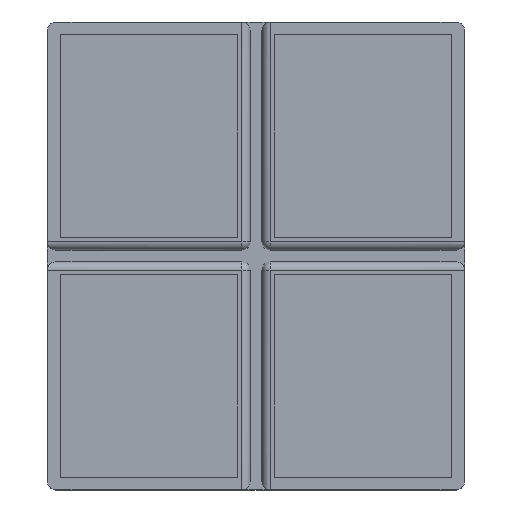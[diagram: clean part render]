
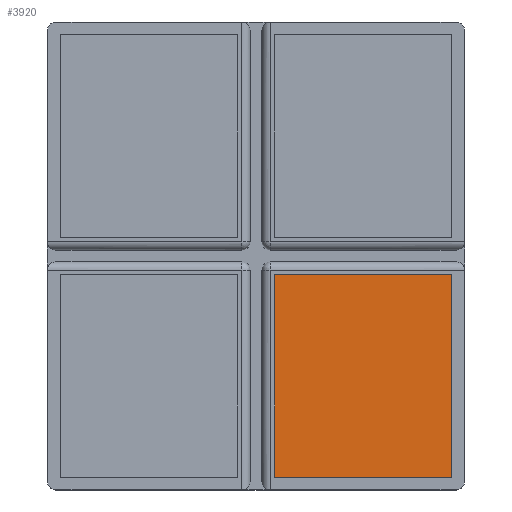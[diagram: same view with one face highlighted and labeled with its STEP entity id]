
A CAD part, top view. The second image highlights one B-rep face of the part: STEP entity #3920.
In plain terms, the highlighted planar face has unit normal (0, 0, 1).
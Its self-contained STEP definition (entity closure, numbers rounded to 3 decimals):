
#448 = PLANE('',#449);
#449 = AXIS2_PLACEMENT_3D('',#450,#451,#452);
#450 = CARTESIAN_POINT('',(53.6,3.,0.));
#451 = DIRECTION('',(0.,-1.,0.));
#452 = DIRECTION('',(1.,0.,0.));
#476 = PLANE('',#477);
#477 = AXIS2_PLACEMENT_3D('',#478,#479,#480);
#478 = CARTESIAN_POINT('',(53.6,50.8,0.));
#479 = DIRECTION('',(-1.,0.,0.));
#480 = DIRECTION('',(0.,-1.,0.));
#504 = PLANE('',#505);
#505 = AXIS2_PLACEMENT_3D('',#506,#507,#508);
#506 = CARTESIAN_POINT('',(95.4,50.8,0.));
#507 = DIRECTION('',(0.,1.,0.));
#508 = DIRECTION('',(-1.,0.,0.));
#530 = PLANE('',#531);
#531 = AXIS2_PLACEMENT_3D('',#532,#533,#534);
#532 = CARTESIAN_POINT('',(95.4,3.,0.));
#533 = DIRECTION('',(1.,0.,0.));
#534 = DIRECTION('',(0.,1.,0.));
#2175 = VERTEX_POINT('',#2176);
#2176 = CARTESIAN_POINT('',(53.6,3.,-8.));
#2197 = EDGE_CURVE('',#2175,#2198,#2200,.T.);
#2198 = VERTEX_POINT('',#2199);
#2199 = CARTESIAN_POINT('',(95.4,3.,-8.));
#2200 = SURFACE_CURVE('',#2201,(#2205,#2212),.PCURVE_S1.);
#2201 = LINE('',#2202,#2203);
#2202 = CARTESIAN_POINT('',(53.6,3.,-8.));
#2203 = VECTOR('',#2204,1.);
#2204 = DIRECTION('',(1.,0.,0.));
#2205 = PCURVE('',#448,#2206);
#2206 = DEFINITIONAL_REPRESENTATION('',(#2207),#2211);
#2207 = LINE('',#2208,#2209);
#2208 = CARTESIAN_POINT('',(0.,-8.));
#2209 = VECTOR('',#2210,1.);
#2210 = DIRECTION('',(1.,0.));
#2211 = ( GEOMETRIC_REPRESENTATION_CONTEXT(2) 
PARAMETRIC_REPRESENTATION_CONTEXT() REPRESENTATION_CONTEXT('2D SPACE',''
  ) );
#2212 = PCURVE('',#2213,#2218);
#2213 = PLANE('',#2214);
#2214 = AXIS2_PLACEMENT_3D('',#2215,#2216,#2217);
#2215 = CARTESIAN_POINT('',(74.5,26.9,-8.));
#2216 = DIRECTION('',(0.,0.,1.));
#2217 = DIRECTION('',(1.,0.,-0.));
#2218 = DEFINITIONAL_REPRESENTATION('',(#2219),#2223);
#2219 = LINE('',#2220,#2221);
#2220 = CARTESIAN_POINT('',(-20.9,-23.9));
#2221 = VECTOR('',#2222,1.);
#2222 = DIRECTION('',(1.,0.));
#2223 = ( GEOMETRIC_REPRESENTATION_CONTEXT(2) 
PARAMETRIC_REPRESENTATION_CONTEXT() REPRESENTATION_CONTEXT('2D SPACE',''
  ) );
#2251 = EDGE_CURVE('',#2198,#2252,#2254,.T.);
#2252 = VERTEX_POINT('',#2253);
#2253 = CARTESIAN_POINT('',(95.4,50.8,-8.));
#2254 = SURFACE_CURVE('',#2255,(#2259,#2266),.PCURVE_S1.);
#2255 = LINE('',#2256,#2257);
#2256 = CARTESIAN_POINT('',(95.4,3.,-8.));
#2257 = VECTOR('',#2258,1.);
#2258 = DIRECTION('',(0.,1.,0.));
#2259 = PCURVE('',#530,#2260);
#2260 = DEFINITIONAL_REPRESENTATION('',(#2261),#2265);
#2261 = LINE('',#2262,#2263);
#2262 = CARTESIAN_POINT('',(0.,-8.));
#2263 = VECTOR('',#2264,1.);
#2264 = DIRECTION('',(1.,0.));
#2265 = ( GEOMETRIC_REPRESENTATION_CONTEXT(2) 
PARAMETRIC_REPRESENTATION_CONTEXT() REPRESENTATION_CONTEXT('2D SPACE',''
  ) );
#2266 = PCURVE('',#2213,#2267);
#2267 = DEFINITIONAL_REPRESENTATION('',(#2268),#2272);
#2268 = LINE('',#2269,#2270);
#2269 = CARTESIAN_POINT('',(20.9,-23.9));
#2270 = VECTOR('',#2271,1.);
#2271 = DIRECTION('',(0.,1.));
#2272 = ( GEOMETRIC_REPRESENTATION_CONTEXT(2) 
PARAMETRIC_REPRESENTATION_CONTEXT() REPRESENTATION_CONTEXT('2D SPACE',''
  ) );
#2300 = EDGE_CURVE('',#2252,#2301,#2303,.T.);
#2301 = VERTEX_POINT('',#2302);
#2302 = CARTESIAN_POINT('',(53.6,50.8,-8.));
#2303 = SURFACE_CURVE('',#2304,(#2308,#2315),.PCURVE_S1.);
#2304 = LINE('',#2305,#2306);
#2305 = CARTESIAN_POINT('',(95.4,50.8,-8.));
#2306 = VECTOR('',#2307,1.);
#2307 = DIRECTION('',(-1.,0.,0.));
#2308 = PCURVE('',#504,#2309);
#2309 = DEFINITIONAL_REPRESENTATION('',(#2310),#2314);
#2310 = LINE('',#2311,#2312);
#2311 = CARTESIAN_POINT('',(0.,-8.));
#2312 = VECTOR('',#2313,1.);
#2313 = DIRECTION('',(1.,0.));
#2314 = ( GEOMETRIC_REPRESENTATION_CONTEXT(2) 
PARAMETRIC_REPRESENTATION_CONTEXT() REPRESENTATION_CONTEXT('2D SPACE',''
  ) );
#2315 = PCURVE('',#2213,#2316);
#2316 = DEFINITIONAL_REPRESENTATION('',(#2317),#2321);
#2317 = LINE('',#2318,#2319);
#2318 = CARTESIAN_POINT('',(20.9,23.9));
#2319 = VECTOR('',#2320,1.);
#2320 = DIRECTION('',(-1.,0.));
#2321 = ( GEOMETRIC_REPRESENTATION_CONTEXT(2) 
PARAMETRIC_REPRESENTATION_CONTEXT() REPRESENTATION_CONTEXT('2D SPACE',''
  ) );
#2349 = EDGE_CURVE('',#2301,#2175,#2350,.T.);
#2350 = SURFACE_CURVE('',#2351,(#2355,#2362),.PCURVE_S1.);
#2351 = LINE('',#2352,#2353);
#2352 = CARTESIAN_POINT('',(53.6,50.8,-8.));
#2353 = VECTOR('',#2354,1.);
#2354 = DIRECTION('',(0.,-1.,0.));
#2355 = PCURVE('',#476,#2356);
#2356 = DEFINITIONAL_REPRESENTATION('',(#2357),#2361);
#2357 = LINE('',#2358,#2359);
#2358 = CARTESIAN_POINT('',(0.,-8.));
#2359 = VECTOR('',#2360,1.);
#2360 = DIRECTION('',(1.,0.));
#2361 = ( GEOMETRIC_REPRESENTATION_CONTEXT(2) 
PARAMETRIC_REPRESENTATION_CONTEXT() REPRESENTATION_CONTEXT('2D SPACE',''
  ) );
#2362 = PCURVE('',#2213,#2363);
#2363 = DEFINITIONAL_REPRESENTATION('',(#2364),#2368);
#2364 = LINE('',#2365,#2366);
#2365 = CARTESIAN_POINT('',(-20.9,23.9));
#2366 = VECTOR('',#2367,1.);
#2367 = DIRECTION('',(0.,-1.));
#2368 = ( GEOMETRIC_REPRESENTATION_CONTEXT(2) 
PARAMETRIC_REPRESENTATION_CONTEXT() REPRESENTATION_CONTEXT('2D SPACE',''
  ) );
#3920 = ADVANCED_FACE('',(#3921),#2213,.T.);
#3921 = FACE_BOUND('',#3922,.T.);
#3922 = EDGE_LOOP('',(#3923,#3924,#3925,#3926));
#3923 = ORIENTED_EDGE('',*,*,#2197,.T.);
#3924 = ORIENTED_EDGE('',*,*,#2251,.T.);
#3925 = ORIENTED_EDGE('',*,*,#2300,.T.);
#3926 = ORIENTED_EDGE('',*,*,#2349,.T.);
